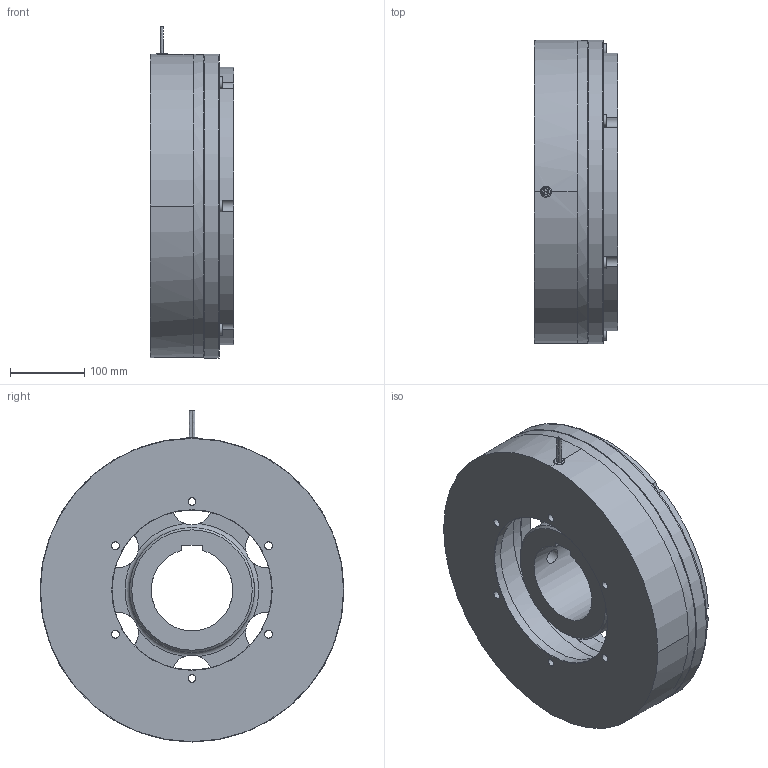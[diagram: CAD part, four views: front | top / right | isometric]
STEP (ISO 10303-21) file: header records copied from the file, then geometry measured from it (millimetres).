
FILE_DESCRIPTION(/* description */ (''),/* implementation_level */ '2;1');
FILE_NAME(/* name */ 'X:\INVENTOR\DISEGNI\08_Freni_Friz_Elettmag_Monodisco\08_28 EMFL_DF\EMFL_DF STEP\08_28_400_13 EMFL400_DF-C-MI@STEP.stp',/* time_stamp */ '2018-04-23T09:42:33+02:00',/* author */ ('stefano'),/* organization */ (''),/* preprocessor_version */ 'ST-DEVELOPER v17',/* originating_system */ 'Autodesk Inventor 2018',/* authorisation */ '');
FILE_SCHEMA (('AUTOMOTIVE_DESIGN { 1 0 10303 214 3 1 1 }'));
Length unit declared in the file: millimetre
Products named in the file (1): 08_28_400_13 EMFL400_DF-C-MI_Substitute_1
Bounding box: 113 x 409 x 446.72 mm (x, y, z)
Volume: 9235686.8 mm3; surface area: 922565.1 mm2
Topology: 4 solids, 4 shells, 509 faces, 1544 edges, 1028 vertices
Faces by surface type: cylinder 292, plane 169, cone 38, torus 7, bspline 3
Full cylindrical faces by diameter (mm): 3 x12, 10.106 x6, 10.5 x6, 12 x1, 15 x1, 16 x12, 17.8 x12, 18 x18, 20.752 x2, 55 x6, 68 x6, 168 x1, 215 x1, 260 x3, 270 x1, 306 x1, 376 x1, 408 x1, 409 x2
Entity records: 19032 total; most frequent: CARTESIAN_POINT 3581, DIRECTION 3552, ORIENTED_EDGE 3080, AXIS2_PLACEMENT_3D 1569, EDGE_CURVE 1540, CIRCLE 1062, VERTEX_POINT 1029, EDGE_LOOP 648
